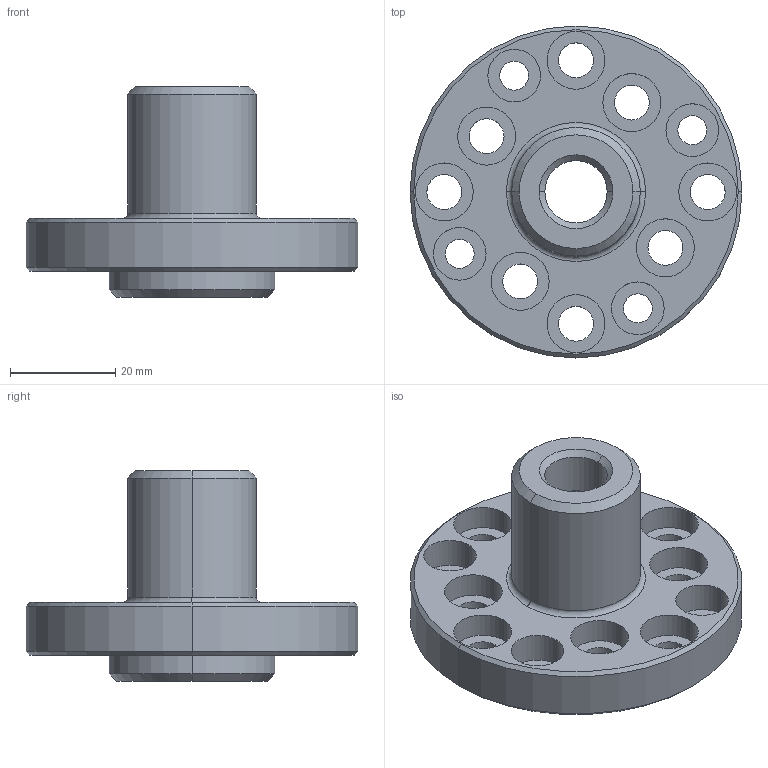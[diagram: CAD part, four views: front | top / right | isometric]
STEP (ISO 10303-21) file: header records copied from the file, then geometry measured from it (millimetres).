
FILE_DESCRIPTION (( 'STEP AP214' ), '1' );
FILE_NAME ('GRF-01.STEP', '2019-12-04T09:16:20', ( '微软用户' ), ( '微软中国' ), 'SwSTEP 2.0', 'SolidWorks 2016', '' );
FILE_SCHEMA (( 'AUTOMOTIVE_DESIGN' ));
Length unit declared in the file: millimetre
Products named in the file (1): GRF-01
Bounding box: 63 x 63 x 40 mm (x, y, z)
Volume: 31328.8 mm3; surface area: 14440.9 mm2
Topology: 1 solids, 1 shells, 89 faces, 202 edges, 130 vertices
Faces by surface type: cylinder 58, plane 17, cone 12, torus 2
Entity records: 3625 total; most frequent: DIRECTION 510, CARTESIAN_POINT 432, ORIENTED_EDGE 404, AXIS2_PLACEMENT_3D 220, EDGE_CURVE 202, VERTEX_POINT 130, EDGE_LOOP 130, CIRCLE 130
